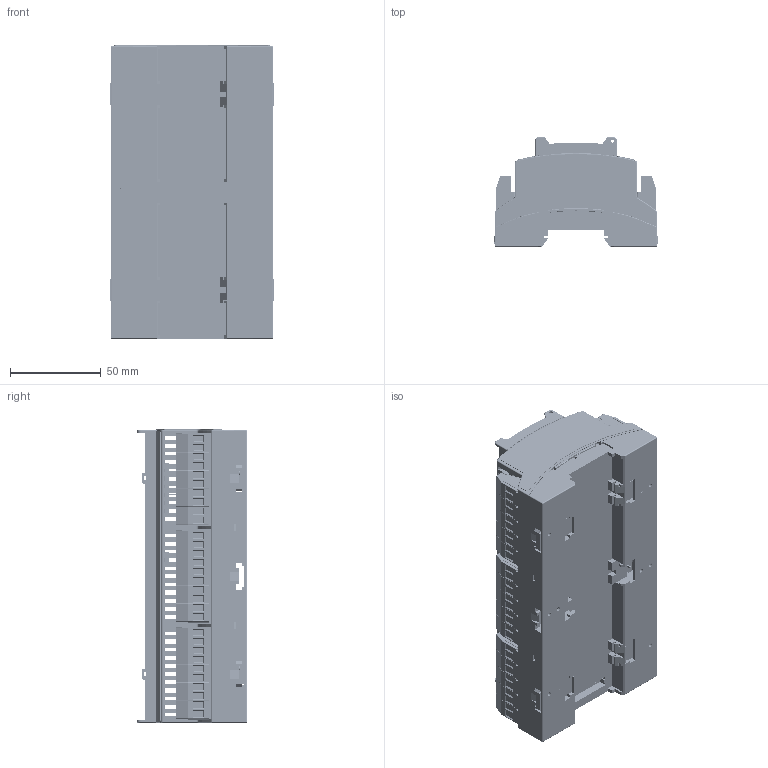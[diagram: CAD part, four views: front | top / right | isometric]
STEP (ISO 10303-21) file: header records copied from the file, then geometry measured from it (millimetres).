
FILE_DESCRIPTION(/* description */ (''),/* implementation_level */ '2;1');
FILE_NAME(/* name */ 'D:\WorkIMT\Project IMT\СКИ\СКИ для сайта\МТ.ПУЛЬС-УСО.-24I-220.СБ для сайта.stp',/* time_stamp */ '2026-10-10T09:42:11+03:00',/* author */ ('admin'),/* organization */ (''),/* preprocessor_version */ 'ST-DEVELOPER v17.2',/* originating_system */ 'Autodesk Inventor 2019',/* authorisation */ '');
FILE_SCHEMA (('AUTOMOTIVE_DESIGN { 1 0 10303 214 3 1 1 }'));
Products named in the file (1): МТ.ПУЛЬС-УСО.
-24I-220.СБ
Bounding box: 91 x 60.7 x 161.9 mm (x, y, z)
Volume: 168032.5 mm3; surface area: 179778.2 mm2
Topology: 6 solids, 200 shells, 18459 faces, 53107 edges, 34870 vertices
Faces by surface type: plane 16010, cylinder 1498, torus 324, sphere 248, cone 210, bspline 169
Full cylindrical faces by diameter (mm): 1 x18, 1.031 x1, 1.5 x1, 1.509 x1, 2 x2, 2.4 x16, 3 x32, 3.5 x1, 3.8 x61, 4.05 x60, 7 x1
Entity records: 638456 total; most frequent: CARTESIAN_POINT 135119, ORIENTED_EDGE 105718, DIRECTION 93099, EDGE_CURVE 52859, LINE 45917, VECTOR 45917, VERTEX_POINT 34870, AXIS2_PLACEMENT_3D 23591
